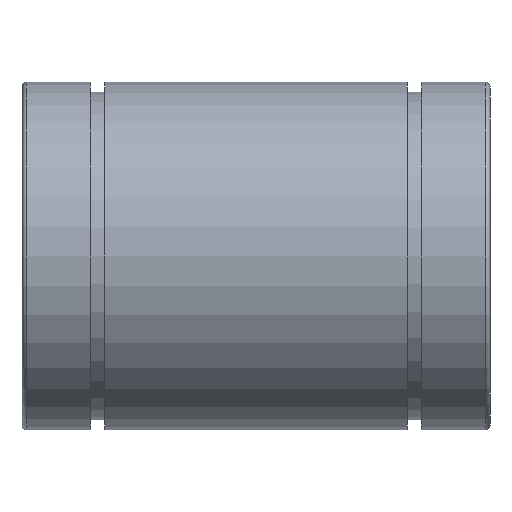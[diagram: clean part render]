
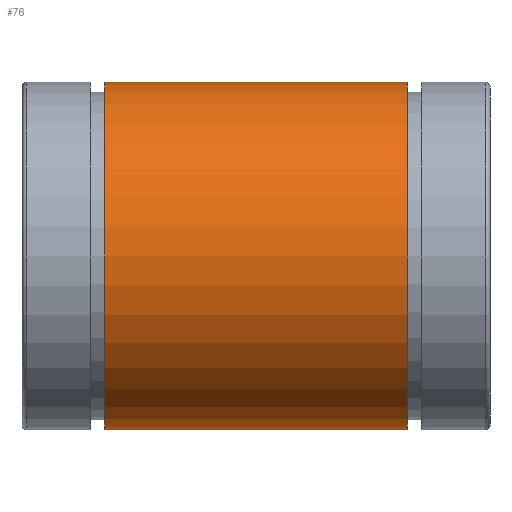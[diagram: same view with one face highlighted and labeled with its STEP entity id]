
A CAD part, front view. The second image highlights one B-rep face of the part: STEP entity #76.
In plain terms, the highlighted cylindrical face has radius 26 mm (diameter 52 mm), a full revolution.
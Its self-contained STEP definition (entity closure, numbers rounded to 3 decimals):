
#76=ADVANCED_FACE('',(#93,#94),#95,.T.);
#93=FACE_OUTER_BOUND('',#135,.T.);
#94=FACE_OUTER_BOUND('',#136,.T.);
#95=CYLINDRICAL_SURFACE('',#137,26.0);
#135=EDGE_LOOP('',(#179));
#136=EDGE_LOOP('',(#180));
#137=AXIS2_PLACEMENT_3D('',#181,#182,#183);
#179=ORIENTED_EDGE('',*,*,#246,.F.);
#180=ORIENTED_EDGE('',*,*,#247,.F.);
#181=CARTESIAN_POINT('',(0.,0.0,0.0));
#182=DIRECTION('',(1.0,-0.0,-0.0));
#183=DIRECTION('',(0.0,1.0,0.0));
#246=EDGE_CURVE('',#262,#262,#263,.T.);
#247=EDGE_CURVE('',#264,#264,#265,.T.);
#262=VERTEX_POINT('',#290);
#263=CIRCLE('',#291,26.0);
#264=VERTEX_POINT('',#292);
#265=CIRCLE('',#293,26.0);
#290=CARTESIAN_POINT('',(-22.65,-26.0,0.0));
#291=AXIS2_PLACEMENT_3D('',#320,#321,#322);
#292=CARTESIAN_POINT('',(22.65,26.0,0.0));
#293=AXIS2_PLACEMENT_3D('',#323,#324,#325);
#320=CARTESIAN_POINT('',(-22.65,0.,0.0));
#321=DIRECTION('',(-1.0,0.0,0.0));
#322=DIRECTION('',(0.0,-1.0,0.0));
#323=CARTESIAN_POINT('',(22.65,0.,0.0));
#324=DIRECTION('',(1.0,0.0,0.0));
#325=DIRECTION('',(0.0,1.0,0.0));
